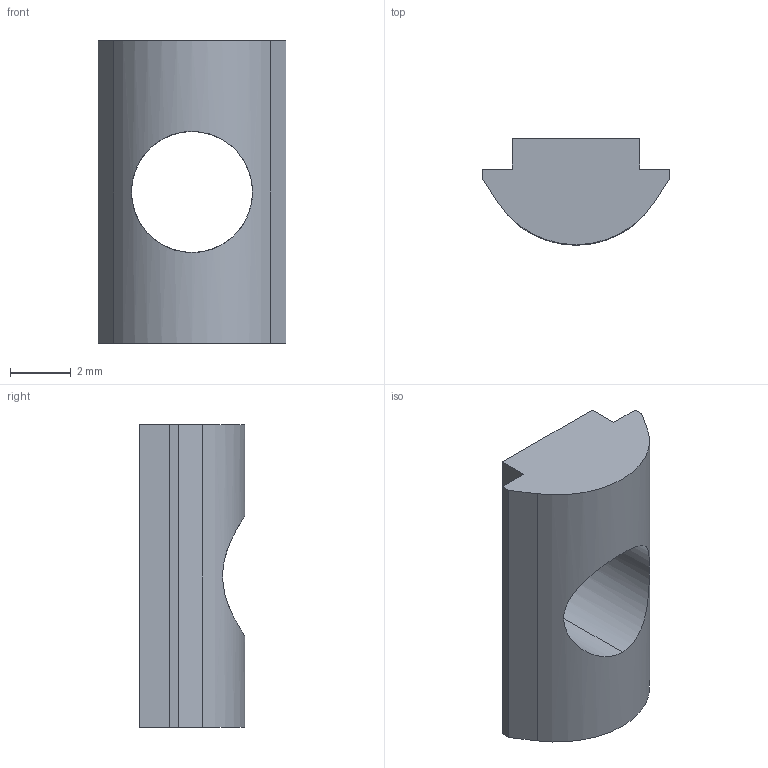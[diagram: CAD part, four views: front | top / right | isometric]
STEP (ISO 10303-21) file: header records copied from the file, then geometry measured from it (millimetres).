
FILE_DESCRIPTION (( 'STEP AP203' ), '1' );
FILE_NAME ('EN04M4.STEP', '2024-02-17T06:12:36', ( '' ), ( '' ), 'SwSTEP 2.0', 'SolidWorks 2022', '' );
FILE_SCHEMA (( 'CONFIG_CONTROL_DESIGN' ));
Length unit declared in the file: millimetre
Products named in the file (1): EN04M4
Bounding box: 6.2 x 3.5 x 10 mm (x, y, z)
Volume: 115.1 mm3; surface area: 213.2 mm2
Topology: 1 solids, 1 shells, 14 faces, 36 edges, 24 vertices
Faces by surface type: plane 11, cylinder 3
Entity records: 609 total; most frequent: CARTESIAN_POINT 183, ORIENTED_EDGE 72, DIRECTION 68, EDGE_CURVE 36, VECTOR 30, LINE 30, VERTEX_POINT 24, AXIS2_PLACEMENT_3D 19
